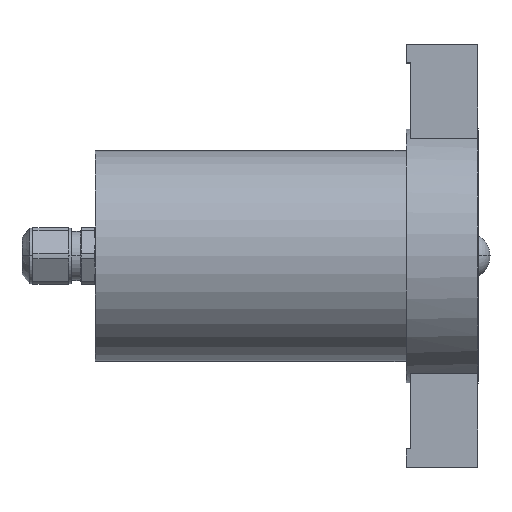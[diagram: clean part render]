
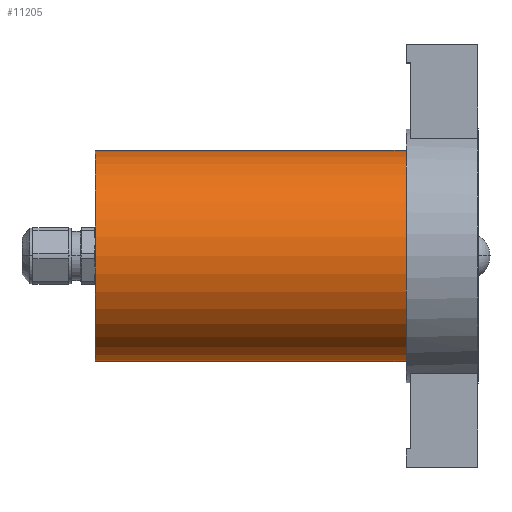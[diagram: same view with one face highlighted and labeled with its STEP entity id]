
A CAD part, front view. The second image highlights one B-rep face of the part: STEP entity #11205.
In plain terms, the highlighted cylindrical face has radius 22.347 mm (diameter 44.693 mm), a partial arc.
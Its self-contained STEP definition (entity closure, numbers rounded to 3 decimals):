
#2536=DIRECTION('',(0.,0.,1.));
#2537=VECTOR('',#2536,65.8);
#2538=CARTESIAN_POINT('',(-22.347,0.,-81.077));
#2539=LINE('',#2538,#2537);
#2545=DIRECTION('',(0.,0.,1.));
#2546=VECTOR('',#2545,65.8);
#2547=CARTESIAN_POINT('',(22.347,0.,-81.077));
#2548=LINE('',#2547,#2546);
#4593=CARTESIAN_POINT('',(0.,0.,-81.077));
#4594=DIRECTION('',(0.,0.,1.));
#4595=DIRECTION('',(-1.,0.,0.));
#4596=AXIS2_PLACEMENT_3D('',#4593,#4594,#4595);
#4603=CARTESIAN_POINT('',(0.,0.,-15.277));
#4604=DIRECTION('',(0.,0.,1.));
#4605=DIRECTION('',(-1.,0.,0.));
#4606=AXIS2_PLACEMENT_3D('',#4603,#4604,#4605);
#8947=CARTESIAN_POINT('',(-22.347,0.,-81.077));
#8948=CARTESIAN_POINT('',(-22.347,0.,-15.277));
#8949=VERTEX_POINT('',#8947);
#8950=VERTEX_POINT('',#8948);
#8951=CARTESIAN_POINT('',(22.347,0.,-81.077));
#8952=CARTESIAN_POINT('',(22.347,0.,-15.277));
#8953=VERTEX_POINT('',#8951);
#8954=VERTEX_POINT('',#8952);
#11193=CARTESIAN_POINT('',(0.,0.,0.));
#11194=DIRECTION('',(0.,0.,1.));
#11195=DIRECTION('',(-1.,0.,0.));
#11196=AXIS2_PLACEMENT_3D('',#11193,#11194,#11195);
#11197=CYLINDRICAL_SURFACE('',#11196,22.347);
#11198=ORIENTED_EDGE('',*,*,#10261,.T.);
#11200=ORIENTED_EDGE('',*,*,#11199,.T.);
#11201=ORIENTED_EDGE('',*,*,#10264,.F.);
#11202=ORIENTED_EDGE('',*,*,#10251,.F.);
#11203=EDGE_LOOP('',(#11198,#11200,#11201,#11202));
#11204=FACE_OUTER_BOUND('',#11203,.F.);
#11205=ADVANCED_FACE('',(#11204),#11197,.T.);
#4597=CIRCLE('',#4596,22.347);
#4607=CIRCLE('',#4606,22.347);
#10251=EDGE_CURVE('',#8949,#8953,#4597,.T.);
#10261=EDGE_CURVE('',#8949,#8950,#2539,.T.);
#10264=EDGE_CURVE('',#8953,#8954,#2548,.T.);
#11199=EDGE_CURVE('',#8950,#8954,#4607,.T.);
